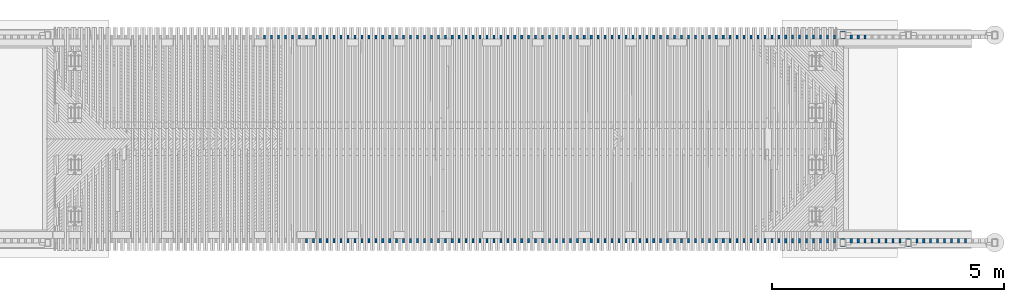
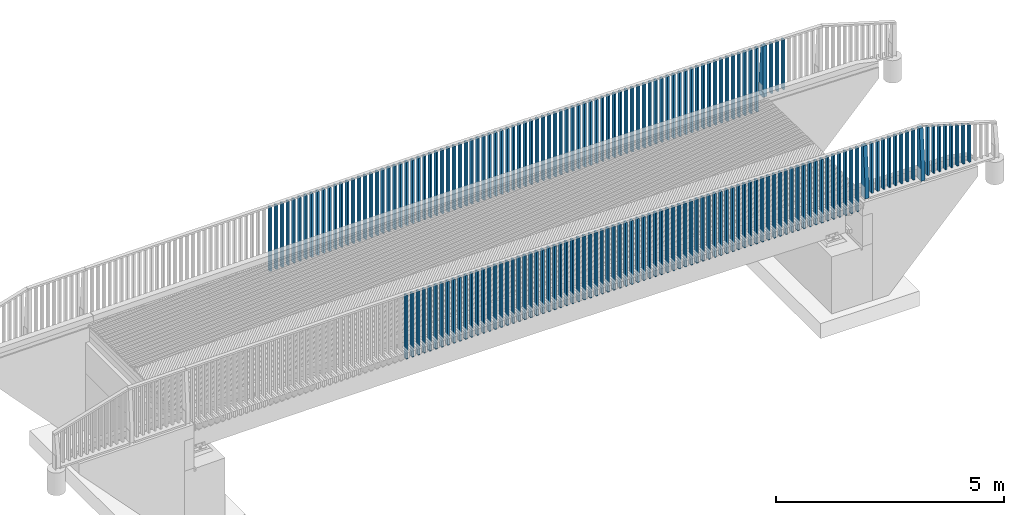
# One storey, part 7 of 47: 182 columns.
"""IFC2X3 building model written with IfcOpenShell, lengths in millimetres."""

from ifc_helpers import new_model, si_unit, frame, origin_with_axes, place, context, subcontext, project, spatial, faceted_brep, material, type_object, element, save


model = new_model("IFC2X3")

# Units and contexts
model_context = context("Model", 3, precision=1e-05, world=origin_with_axes())
body_context = subcontext(model_context, "Body", "Model", "MODEL_VIEW")
ifc_project = project(units=[si_unit("LENGTHUNIT", "METRE", prefix="MILLI"), si_unit("AREAUNIT", "SQUARE_METRE"), si_unit("VOLUMEUNIT", "CUBIC_METRE"), si_unit("MASSUNIT", "GRAM", prefix="KILO"), si_unit("TIMEUNIT", "SECOND"), si_unit("PLANEANGLEUNIT", "RADIAN"), si_unit("SOLIDANGLEUNIT", "STERADIAN"), si_unit("THERMODYNAMICTEMPERATUREUNIT", "DEGREE_CELSIUS"), si_unit("LUMINOUSINTENSITYUNIT", "LUMEN")], contexts=[model_context])

# Site, building, storey
site_placement = place(None, origin_with_axes())
site = spatial("IfcSite", under=ifc_project, at=site_placement, Name="Undefined", CompositionType="ELEMENT")
building_placement = place(site_placement, origin_with_axes())
building = spatial("IfcBuilding", under=site, at=building_placement, Name="Undefined", CompositionType="ELEMENT")
storey_placement = place(building_placement, origin_with_axes())
storey = spatial("IfcBuildingStorey", under=building, at=storey_placement, Name="Undefined", CompositionType="ELEMENT", Elevation=0.0)

# Columns
ifc_material = material(Name="TIMBER/Timber_Undefined")
column_type_1 = type_object("IfcColumnType", Name="180*100", PredefinedType="NOTDEFINED")
column_1_placement = place(storey_placement, frame((17996.9999992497, 60125.0120919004, 3729.56999999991), z_axis=(0.0, 1.0, 0.0), x_axis=(0.0, 0.0, 1.0)))
element("IfcColumn", 1, at=column_1_placement, inside=storey, type_object=column_type_1, material=ifc_material, Name="KAIDEPYLVÄS", ObjectType="180*100", context=body_context, shape_type="Brep", body=[
    faceted_brep([(-606.989999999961, -50.0, -90.0), (-606.989999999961, -50.0, 90.0), (-606.989999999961, 50.0, 90.0), (-606.989999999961, 50.0, -90.0), (758.516492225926, -50.0, 90.0), (756.859403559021, 50.0, 90.0), (756.859403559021, 50.0, -5.6821815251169), (-287.990000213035, 50.0, -90.0), (-287.990000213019, -50.0, -90.0), (758.516492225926, -50.0, -5.54845689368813)], [[[0, 1, 2, 3]], [[2, 1, 4, 5]], [[3, 2, 5, 6, 7]], [[0, 3, 7, 8]], [[4, 1, 0, 8, 9]], [[5, 4, 9, 6]], [[8, 7, 6, 9]]]),
])
column_2_placement = place(storey_placement, frame((16581.9999992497, 64604.9879081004, 3749.43999999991), z_axis=(0.0, -1.0, 0.0), x_axis=(0.0, 0.0, 1.0)))
element("IfcColumn", 2, at=column_2_placement, inside=storey, type_object=column_type_1, material=ifc_material, Name="KAIDEPYLVÄS", ObjectType="180*100", context=body_context, shape_type="Brep", body=[
    faceted_brep([(-606.989999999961, 50.0, 90.0), (-606.989999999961, -50.0, 90.0), (756.859403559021, -50.0, 90.0), (758.516492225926, 50.0, 90.0), (-606.989999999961, -50.0, -90.0), (-606.989999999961, 50.0, -90.0), (-287.990000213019, -50.0, -90.0), (756.859403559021, -50.0, -5.68218152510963), (758.516492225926, 50.0, -5.54845689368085), (-287.990000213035, 50.0, -90.0)], [[[0, 1, 2, 3]], [[4, 1, 0, 5]], [[2, 1, 4, 6, 7]], [[3, 2, 7, 8]], [[5, 0, 3, 8, 9]], [[4, 5, 9, 6]], [[8, 7, 6, 9]]]),
])
column_3_placement = place(storey_placement, frame((16581.9999992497, 60125.0120919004, 3749.43999999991), z_axis=(0.0, 1.0, 0.0), x_axis=(0.0, 0.0, 1.0)))
element("IfcColumn", 3, at=column_3_placement, inside=storey, type_object=column_type_1, material=ifc_material, Name="KAIDEPYLVÄS", ObjectType="180*100", context=body_context, shape_type="Brep", body=[
    faceted_brep([(-606.989999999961, -50.0, -90.0), (-606.989999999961, -50.0, 90.0), (-606.989999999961, 50.0, 90.0), (-606.989999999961, 50.0, -90.0), (758.516492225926, -50.0, 90.0), (756.859403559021, 50.0, 90.0), (756.859403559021, 50.0, -5.6821815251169), (-287.990000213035, 50.0, -90.0), (-287.990000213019, -50.0, -90.0), (758.516492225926, -50.0, -5.54845689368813)], [[[0, 1, 2, 3]], [[2, 1, 4, 5]], [[3, 2, 5, 6, 7]], [[0, 3, 7, 8]], [[4, 1, 0, 8, 9]], [[5, 4, 9, 6]], [[8, 7, 6, 9]]]),
])
column_type_2 = type_object("IfcColumnType", Name="95*45", PredefinedType="NOTDEFINED")
column_4_placement = place(storey_placement, frame((17064.4999992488, 64562.4979081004, 3119.90000000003), z_axis=(0.0, 1.0, 0.0), x_axis=(0.0, 0.0, 1.0)))
element("IfcColumn", 4, at=column_4_placement, inside=storey, type_object=column_type_2, material=ifc_material, Name="BEAM", ObjectType="95*45", context=body_context, shape_type="Brep", body=[
    faceted_brep([(45.8837540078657, 22.5, -47.5), (45.8837540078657, 22.5, 47.5), (1380.24638384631, 22.5, 47.5), (1380.24638384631, 22.5, -47.5), (46.5156987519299, -22.5, 47.5), (1380.87760086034, -22.5, 47.5), (46.5156987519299, -22.5, -47.5), (1380.87760086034, -22.5, -47.5)], [[[0, 1, 2, 3]], [[1, 4, 5, 2]], [[4, 6, 7, 5]], [[6, 0, 3, 7]], [[5, 7, 3, 2]], [[6, 4, 1, 0]]]),
])
column_5_placement = place(storey_placement, frame((16914.4999992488, 64562.4979081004, 3119.90000000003), z_axis=(0.0, 1.0, 0.0), x_axis=(0.0, 0.0, 1.0)))
element("IfcColumn", 5, at=column_5_placement, inside=storey, type_object=column_type_2, material=ifc_material, Name="BEAM", ObjectType="95*45", context=body_context, shape_type="Brep", body=[
    faceted_brep([(47.9902364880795, 22.5, -47.5), (47.9902364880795, 22.5, 47.5), (1382.35044055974, 22.5, 47.5), (1382.35044055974, 22.5, -47.5), (48.6221812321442, -22.5, 47.5), (1382.98165757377, -22.5, 47.5), (48.6221812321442, -22.5, -47.5), (1382.98165757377, -22.5, -47.5)], [[[0, 1, 2, 3]], [[1, 4, 5, 2]], [[4, 6, 7, 5]], [[6, 0, 3, 7]], [[5, 7, 3, 2]], [[6, 4, 1, 0]]]),
])
column_6_placement = place(storey_placement, frame((16764.4999992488, 64562.4979081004, 3119.90000000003), z_axis=(0.0, 1.0, 0.0), x_axis=(0.0, 0.0, 1.0)))
element("IfcColumn", 6, at=column_6_placement, inside=storey, type_object=column_type_2, material=ifc_material, Name="BEAM", ObjectType="95*45", context=body_context, shape_type="Brep", body=[
    faceted_brep([(50.0967189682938, 22.5, -47.5), (50.0967189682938, 22.5, 47.5), (1384.45449727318, 22.5, 47.5), (1384.45449727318, 22.5, -47.5), (50.728663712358, -22.5, 47.5), (1385.08571428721, -22.5, 47.5), (50.728663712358, -22.5, -47.5), (1385.08571428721, -22.5, -47.5)], [[[0, 1, 2, 3]], [[1, 4, 5, 2]], [[4, 6, 7, 5]], [[6, 0, 3, 7]], [[5, 7, 3, 2]], [[6, 4, 1, 0]]]),
])
column_7_placement = place(storey_placement, frame((18179.5291836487, 60167.5020919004, 3121.94), z_axis=(0.0, -1.0, 0.0), x_axis=(0.0, 0.0, 1.0)))
element("IfcColumn", 7, at=column_7_placement, inside=storey, type_object=column_type_2, material=ifc_material, Name="BEAM", ObjectType="95*45", context=body_context, shape_type="Brep", body=[
    faceted_brep([(28.8093027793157, 22.5, -47.5), (28.8093027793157, 22.5, 47.5), (1329.96289203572, 22.5, 47.5), (1329.96289203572, 22.5, -47.5), (28.1773870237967, -22.5, 47.5), (1316.53527806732, -22.5, 47.5), (28.1773870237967, -22.5, -47.5), (1316.53527806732, -22.5, -47.5)], [[[0, 1, 2, 3]], [[1, 4, 5, 2]], [[4, 6, 7, 5]], [[6, 0, 3, 7]], [[5, 7, 3, 2]], [[6, 4, 1, 0]]]),
])
column_8_placement = place(storey_placement, frame((18329.5291836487, 60167.5020919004, 3121.94), z_axis=(0.0, -1.0, 0.0), x_axis=(0.0, 0.0, 1.0)))
element("IfcColumn", 8, at=column_8_placement, inside=storey, type_object=column_type_2, material=ifc_material, Name="BEAM", ObjectType="95*45", context=body_context, shape_type="Brep", body=[
    faceted_brep([(26.7029169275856, 22.5, -47.5), (26.7029169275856, 22.5, 47.5), (1285.20417880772, 22.5, 47.5), (1285.20417880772, 22.5, -47.5), (26.0710011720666, -22.5, 47.5), (1271.77656483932, -22.5, 47.5), (26.0710011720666, -22.5, -47.5), (1271.77656483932, -22.5, -47.5)], [[[0, 1, 2, 3]], [[1, 4, 5, 2]], [[4, 6, 7, 5]], [[6, 0, 3, 7]], [[5, 7, 3, 2]], [[6, 4, 1, 0]]]),
])
column_9_placement = place(storey_placement, frame((18479.5291836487, 60167.5020919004, 3121.94), z_axis=(0.0, -1.0, 0.0), x_axis=(0.0, 0.0, 1.0)))
element("IfcColumn", 9, at=column_9_placement, inside=storey, type_object=column_type_2, material=ifc_material, Name="BEAM", ObjectType="95*45", context=body_context, shape_type="Brep", body=[
    faceted_brep([(24.5965310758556, 22.5, -47.5), (24.5965310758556, 22.5, 47.5), (1240.44546557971, 22.5, 47.5), (1240.44546557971, 22.5, -47.5), (23.9646153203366, -22.5, 47.5), (1227.01785161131, -22.5, 47.5), (23.9646153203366, -22.5, -47.5), (1227.01785161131, -22.5, -47.5)], [[[0, 1, 2, 3]], [[1, 4, 5, 2]], [[4, 6, 7, 5]], [[6, 0, 3, 7]], [[5, 7, 3, 2]], [[6, 4, 1, 0]]]),
])
column_10_placement = place(storey_placement, frame((18629.5291836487, 60167.5020919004, 3121.94), z_axis=(0.0, -1.0, 0.0), x_axis=(0.0, 0.0, 1.0)))
element("IfcColumn", 10, at=column_10_placement, inside=storey, type_object=column_type_2, material=ifc_material, Name="BEAM", ObjectType="95*45", context=body_context, shape_type="Brep", body=[
    faceted_brep([(22.4901452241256, 22.5, -47.5), (22.4901452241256, 22.5, 47.5), (1195.68675235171, 22.5, 47.5), (1195.68675235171, 22.5, -47.5), (21.8582294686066, -22.5, 47.5), (1182.2591383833, -22.5, 47.5), (21.8582294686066, -22.5, -47.5), (1182.2591383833, -22.5, -47.5)], [[[0, 1, 2, 3]], [[1, 4, 5, 2]], [[4, 6, 7, 5]], [[6, 0, 3, 7]], [[5, 7, 3, 2]], [[6, 4, 1, 0]]]),
])
column_11_placement = place(storey_placement, frame((18779.5291836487, 60167.5020919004, 3121.94), z_axis=(0.0, -1.0, 0.0), x_axis=(0.0, 0.0, 1.0)))
element("IfcColumn", 11, at=column_11_placement, inside=storey, type_object=column_type_2, material=ifc_material, Name="BEAM", ObjectType="95*45", context=body_context, shape_type="Brep", body=[
    faceted_brep([(20.3837593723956, 22.5, -47.5), (20.3837593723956, 22.5, 47.5), (1150.9280391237, 22.5, 47.5), (1150.9280391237, 22.5, -47.5), (19.7518436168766, -22.5, 47.5), (1137.5004251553, -22.5, 47.5), (19.7518436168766, -22.5, -47.5), (1137.5004251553, -22.5, -47.5)], [[[0, 1, 2, 3]], [[1, 4, 5, 2]], [[4, 6, 7, 5]], [[6, 0, 3, 7]], [[5, 7, 3, 2]], [[6, 4, 1, 0]]]),
])
column_12_placement = place(storey_placement, frame((18929.5291836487, 60167.5020919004, 3121.94), z_axis=(0.0, -1.0, 0.0), x_axis=(0.0, 0.0, 1.0)))
element("IfcColumn", 12, at=column_12_placement, inside=storey, type_object=column_type_2, material=ifc_material, Name="BEAM", ObjectType="95*45", context=body_context, shape_type="Brep", body=[
    faceted_brep([(18.2773735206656, 22.5, -47.5), (18.2773735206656, 22.5, 47.5), (1106.16932589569, 22.5, 47.5), (1106.16932589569, 22.5, -47.5), (17.6454577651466, -22.5, 47.5), (1092.74171192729, -22.5, 47.5), (17.6454577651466, -22.5, -47.5), (1092.74171192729, -22.5, -47.5)], [[[0, 1, 2, 3]], [[1, 4, 5, 2]], [[4, 6, 7, 5]], [[6, 0, 3, 7]], [[5, 7, 3, 2]], [[6, 4, 1, 0]]]),
])
column_13_placement = place(storey_placement, frame((19079.5291836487, 60167.5020919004, 3121.94), z_axis=(0.0, -1.0, 0.0), x_axis=(0.0, 0.0, 1.0)))
element("IfcColumn", 13, at=column_13_placement, inside=storey, type_object=column_type_2, material=ifc_material, Name="BEAM", ObjectType="95*45", context=body_context, shape_type="Brep", body=[
    faceted_brep([(16.1709876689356, 22.5, -47.5), (16.1709876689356, 22.5, 47.5), (1061.41061266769, 22.5, 47.5), (1061.41061266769, 22.5, -47.5), (15.5390719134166, -22.5, 47.5), (1047.98299869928, -22.5, 47.5), (15.5390719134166, -22.5, -47.5), (1047.98299869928, -22.5, -47.5)], [[[0, 1, 2, 3]], [[1, 4, 5, 2]], [[4, 6, 7, 5]], [[6, 0, 3, 7]], [[5, 7, 3, 2]], [[6, 4, 1, 0]]]),
])
column_14_placement = place(storey_placement, frame((19229.5291836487, 60167.5020919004, 3121.94), z_axis=(0.0, -1.0, 0.0), x_axis=(0.0, 0.0, 1.0)))
element("IfcColumn", 14, at=column_14_placement, inside=storey, type_object=column_type_2, material=ifc_material, Name="BEAM", ObjectType="95*45", context=body_context, shape_type="Brep", body=[
    faceted_brep([(14.0646018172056, 22.5, -47.5), (14.0646018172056, 22.5, 47.5), (1016.65189943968, 22.5, 47.5), (1016.65189943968, 22.5, -47.5), (13.4326860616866, -22.5, 47.5), (1003.22428547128, -22.5, 47.5), (13.4326860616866, -22.5, -47.5), (1003.22428547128, -22.5, -47.5)], [[[0, 1, 2, 3]], [[1, 4, 5, 2]], [[4, 6, 7, 5]], [[6, 0, 3, 7]], [[5, 7, 3, 2]], [[6, 4, 1, 0]]]),
])
column_15_placement = place(storey_placement, frame((17814.4999992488, 60167.5020919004, 3119.90000000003), z_axis=(0.0, -1.0, 0.0), x_axis=(0.0, 0.0, 1.0)))
element("IfcColumn", 15, at=column_15_placement, inside=storey, type_object=column_type_2, material=ifc_material, Name="BEAM", ObjectType="95*45", context=body_context, shape_type="Brep", body=[
    faceted_brep([(35.9832863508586, 22.5, -47.5), (35.9832863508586, 22.5, 47.5), (1370.35731729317, 22.5, 47.5), (1370.35731729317, 22.5, -47.5), (35.3513416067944, -22.5, 47.5), (1369.72610027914, -22.5, 47.5), (35.3513416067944, -22.5, -47.5), (1369.72610027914, -22.5, -47.5)], [[[0, 1, 2, 3]], [[1, 4, 5, 2]], [[4, 6, 7, 5]], [[6, 0, 3, 7]], [[5, 7, 3, 2]], [[6, 4, 1, 0]]]),
])
column_16_placement = place(storey_placement, frame((17664.4999992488, 60167.5020919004, 3119.90000000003), z_axis=(0.0, -1.0, 0.0), x_axis=(0.0, 0.0, 1.0)))
element("IfcColumn", 16, at=column_16_placement, inside=storey, type_object=column_type_2, material=ifc_material, Name="BEAM", ObjectType="95*45", context=body_context, shape_type="Brep", body=[
    faceted_brep([(38.0897688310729, 22.5, -47.5), (38.0897688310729, 22.5, 47.5), (1372.4613740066, 22.5, 47.5), (1372.4613740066, 22.5, -47.5), (37.4578240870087, -22.5, 47.5), (1371.83015699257, -22.5, 47.5), (37.4578240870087, -22.5, -47.5), (1371.83015699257, -22.5, -47.5)], [[[0, 1, 2, 3]], [[1, 4, 5, 2]], [[4, 6, 7, 5]], [[6, 0, 3, 7]], [[5, 7, 3, 2]], [[6, 4, 1, 0]]]),
])
column_17_placement = place(storey_placement, frame((17514.4999992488, 60167.5020919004, 3119.90000000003), z_axis=(0.0, -1.0, 0.0), x_axis=(0.0, 0.0, 1.0)))
element("IfcColumn", 17, at=column_17_placement, inside=storey, type_object=column_type_2, material=ifc_material, Name="BEAM", ObjectType="95*45", context=body_context, shape_type="Brep", body=[
    faceted_brep([(40.1962513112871, 22.5, -47.5), (40.1962513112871, 22.5, 47.5), (1374.56543072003, 22.5, 47.5), (1374.56543072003, 22.5, -47.5), (39.564306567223, -22.5, 47.5), (1373.934213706, -22.5, 47.5), (39.564306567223, -22.5, -47.5), (1373.934213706, -22.5, -47.5)], [[[0, 1, 2, 3]], [[1, 4, 5, 2]], [[4, 6, 7, 5]], [[6, 0, 3, 7]], [[5, 7, 3, 2]], [[6, 4, 1, 0]]]),
])
column_18_placement = place(storey_placement, frame((17364.4999992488, 60167.5020919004, 3119.90000000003), z_axis=(0.0, -1.0, 0.0), x_axis=(0.0, 0.0, 1.0)))
element("IfcColumn", 18, at=column_18_placement, inside=storey, type_object=column_type_2, material=ifc_material, Name="BEAM", ObjectType="95*45", context=body_context, shape_type="Brep", body=[
    faceted_brep([(42.3027337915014, 22.5, -47.5), (42.3027337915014, 22.5, 47.5), (1376.66948743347, 22.5, 47.5), (1376.66948743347, 22.5, -47.5), (41.6707890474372, -22.5, 47.5), (1376.03827041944, -22.5, 47.5), (41.6707890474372, -22.5, -47.5), (1376.03827041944, -22.5, -47.5)], [[[0, 1, 2, 3]], [[1, 4, 5, 2]], [[4, 6, 7, 5]], [[6, 0, 3, 7]], [[5, 7, 3, 2]], [[6, 4, 1, 0]]]),
])
column_19_placement = place(storey_placement, frame((17214.4999992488, 60167.5020919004, 3119.90000000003), z_axis=(0.0, -1.0, 0.0), x_axis=(0.0, 0.0, 1.0)))
element("IfcColumn", 19, at=column_19_placement, inside=storey, type_object=column_type_2, material=ifc_material, Name="BEAM", ObjectType="95*45", context=body_context, shape_type="Brep", body=[
    faceted_brep([(44.4092162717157, 22.5, -47.5), (44.4092162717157, 22.5, 47.5), (1378.7735441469, 22.5, 47.5), (1378.7735441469, 22.5, -47.5), (43.7772715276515, -22.5, 47.5), (1378.14232713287, -22.5, 47.5), (43.7772715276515, -22.5, -47.5), (1378.14232713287, -22.5, -47.5)], [[[0, 1, 2, 3]], [[1, 4, 5, 2]], [[4, 6, 7, 5]], [[6, 0, 3, 7]], [[5, 7, 3, 2]], [[6, 4, 1, 0]]]),
])
column_20_placement = place(storey_placement, frame((17064.4999992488, 60167.5020919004, 3119.90000000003), z_axis=(0.0, -1.0, 0.0), x_axis=(0.0, 0.0, 1.0)))
element("IfcColumn", 20, at=column_20_placement, inside=storey, type_object=column_type_2, material=ifc_material, Name="BEAM", ObjectType="95*45", context=body_context, shape_type="Brep", body=[
    faceted_brep([(46.5156987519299, 22.5, -47.5), (46.5156987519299, 22.5, 47.5), (1380.87760086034, 22.5, 47.5), (1380.87760086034, 22.5, -47.5), (45.8837540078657, -22.5, 47.5), (1380.24638384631, -22.5, 47.5), (45.8837540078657, -22.5, -47.5), (1380.24638384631, -22.5, -47.5)], [[[0, 1, 2, 3]], [[1, 4, 5, 2]], [[4, 6, 7, 5]], [[6, 0, 3, 7]], [[5, 7, 3, 2]], [[6, 4, 1, 0]]]),
])
column_21_placement = place(storey_placement, frame((16914.4999992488, 60167.5020919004, 3119.90000000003), z_axis=(0.0, -1.0, 0.0), x_axis=(0.0, 0.0, 1.0)))
element("IfcColumn", 21, at=column_21_placement, inside=storey, type_object=column_type_2, material=ifc_material, Name="BEAM", ObjectType="95*45", context=body_context, shape_type="Brep", body=[
    faceted_brep([(48.6221812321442, 22.5, -47.5), (48.6221812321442, 22.5, 47.5), (1382.98165757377, 22.5, 47.5), (1382.98165757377, 22.5, -47.5), (47.9902364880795, -22.5, 47.5), (1382.35044055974, -22.5, 47.5), (47.9902364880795, -22.5, -47.5), (1382.35044055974, -22.5, -47.5)], [[[0, 1, 2, 3]], [[1, 4, 5, 2]], [[4, 6, 7, 5]], [[6, 0, 3, 7]], [[5, 7, 3, 2]], [[6, 4, 1, 0]]]),
])
column_22_placement = place(storey_placement, frame((16764.4999992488, 60167.5020919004, 3119.90000000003), z_axis=(0.0, -1.0, 0.0), x_axis=(0.0, 0.0, 1.0)))
element("IfcColumn", 22, at=column_22_placement, inside=storey, type_object=column_type_2, material=ifc_material, Name="BEAM", ObjectType="95*45", context=body_context, shape_type="Brep", body=[
    faceted_brep([(50.728663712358, 22.5, -47.5), (50.728663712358, 22.5, 47.5), (1385.08571428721, 22.5, 47.5), (1385.08571428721, 22.5, -47.5), (50.0967189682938, -22.5, 47.5), (1384.45449727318, -22.5, 47.5), (50.0967189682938, -22.5, -47.5), (1384.45449727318, -22.5, -47.5)], [[[0, 1, 2, 3]], [[1, 4, 5, 2]], [[4, 6, 7, 5]], [[6, 0, 3, 7]], [[5, 7, 3, 2]], [[6, 4, 1, 0]]]),
])
for number, where, z_axis, x_axis in (
    (23, (16400.0000678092, 64562.4879081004, 2804.85408151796), (0.0, -1.0, 0.0), (0.0, 0.0, 1.0)),
    (24, (16250.0000678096, 64562.4879081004, 2806.92364731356), (0.0, -1.0, 0.0), (0.0, 0.0, 1.0)),
    (25, (16100.0000678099, 64562.4879081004, 2808.95591672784), (0.0, -1.0, 0.0), (0.0, 0.0, 1.0)),
    (26, (15950.0000678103, 64562.4879081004, 2810.95089013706), (0.0, -1.0, 0.0), (0.0, 0.0, 1.0)),
    (27, (15800.0000678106, 64562.4879081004, 2812.90856791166), (0.0, -1.0, 0.0), (0.0, 0.0, 1.0)),
    (28, (15650.0000678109, 64562.4879081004, 2814.82895041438), (0.0, -1.0, 0.0), (0.0, 0.0, 1.0)),
    (29, (15500.0000678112, 64562.4879081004, 2816.71203800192), (0.0, -1.0, 0.0), (0.0, 0.0, 1.0)),
    (30, (15350.0000678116, 64562.4879081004, 2818.55783102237), (0.0, -1.0, 0.0), (0.0, 0.0, 1.0)),
    (31, (15200.0000678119, 64562.4879081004, 2820.36632981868), (0.0, -1.0, 0.0), (0.0, 0.0, 1.0)),
    (32, (15050.0000678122, 64562.4879081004, 2822.13753472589), (0.0, -1.0, 0.0), (0.0, 0.0, 1.0)),
    (33, (14900.0000678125, 64562.4879081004, 2823.871446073), (0.0, -1.0, 0.0), (0.0, 0.0, 1.0)),
    (34, (14750.0000678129, 64562.4879081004, 2825.56806418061), (0.0, -1.0, 0.0), (0.0, 0.0, 1.0)),
    (35, (14600.0000678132, 64562.4879081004, 2827.22738936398), (0.0, -1.0, 0.0), (0.0, 0.0, 1.0)),
    (36, (14450.0000678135, 64562.4879081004, 2828.84942193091), (0.0, -1.0, 0.0), (0.0, 0.0, 1.0)),
    (37, (14300.0000678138, 64562.4879081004, 2830.43416218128), (0.0, -1.0, 0.0), (0.0, 0.0, 1.0)),
    (38, (14150.0000678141, 64562.4879081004, 2831.98161040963), (0.0, -1.0, 0.0), (0.0, 0.0, 1.0)),
    (39, (14000.0000678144, 64562.4879081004, 2833.49176690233), (0.0, -1.0, 0.0), (0.0, 0.0, 1.0)),
    (40, (13850.0000678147, 64562.4879081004, 2834.96463194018), (0.0, -1.0, 0.0), (0.0, 0.0, 1.0)),
    (41, (13700.000067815, 64562.4879081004, 2836.4002057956), (0.0, -1.0, 0.0), (0.0, 0.0, 1.0)),
    (42, (13550.0000678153, 64562.4879081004, 2837.79848873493), (0.0, -1.0, 0.0), (0.0, 0.0, 1.0)),
    (43, (13400.0000678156, 64562.4879081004, 2839.1594810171), (0.0, -1.0, 0.0), (0.0, 0.0, 1.0)),
    (44, (13250.0000678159, 64562.4879081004, 2840.48318289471), (0.0, -1.0, 0.0), (0.0, 0.0, 1.0)),
    (45, (13100.0000678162, 64562.4879081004, 2841.76959461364), (0.0, -1.0, 0.0), (0.0, 0.0, 1.0)),
    (46, (12950.0000678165, 64562.4879081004, 2843.01871641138), (0.0, -1.0, 0.0), (0.0, 0.0, 1.0)),
    (47, (12800.0000678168, 64562.4879081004, 2844.23054852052), (0.0, -1.0, 0.0), (0.0, 0.0, 1.0)),
    (48, (12650.0000678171, 64562.4879081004, 2845.40509116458), (0.0, -1.0, 0.0), (0.0, 0.0, 1.0)),
    (49, (12500.0000678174, 64562.4879081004, 2846.54234456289), (0.0, -1.0, 0.0), (0.0, 0.0, 1.0)),
    (50, (12350.0000678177, 64562.4879081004, 2847.64230892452), (0.0, -1.0, 0.0), (0.0, 0.0, 1.0)),
    (51, (12200.000067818, 64562.4879081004, 2848.70498445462), (0.0, -1.0, 0.0), (0.0, 0.0, 1.0)),
    (52, (12050.0000678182, 64562.4879081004, 2849.73037134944), (0.0, -1.0, 0.0), (0.0, 0.0, 1.0)),
    (53, (11900.0000678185, 64562.4879081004, 2850.71846979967), (0.0, -1.0, 0.0), (0.0, 0.0, 1.0)),
    (54, (11750.0000678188, 64562.4879081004, 2851.66927998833), (0.0, -1.0, 0.0), (0.0, 0.0, 1.0)),
    (55, (11600.0000678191, 64562.4879081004, 2852.5828020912), (0.0, -1.0, 0.0), (0.0, 0.0, 1.0)),
    (56, (11450.0000678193, 64562.4879081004, 2853.45903627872), (0.0, -1.0, 0.0), (0.0, 0.0, 1.0)),
    (57, (11300.0000678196, 64562.4879081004, 2854.29798271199), (0.0, -1.0, 0.0), (0.0, 0.0, 1.0)),
    (58, (11150.0000678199, 64562.4879081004, 2855.09964154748), (0.0, -1.0, 0.0), (0.0, 0.0, 1.0)),
    (59, (11000.0000678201, 64562.4879081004, 2855.86401293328), (0.0, -1.0, 0.0), (0.0, 0.0, 1.0)),
    (60, (10850.0000678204, 64562.4879081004, 2856.59109701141), (0.0, -1.0, 0.0), (0.0, 0.0, 1.0)),
    (61, (10700.0000678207, 64562.4879081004, 2857.28089391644), (0.0, -1.0, 0.0), (0.0, 0.0, 1.0)),
    (62, (10550.0000678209, 64562.4879081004, 2857.93340377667), (0.0, -1.0, 0.0), (0.0, 0.0, 1.0)),
    (63, (10400.0000678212, 64562.4879081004, 2858.54862671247), (0.0, -1.0, 0.0), (0.0, 0.0, 1.0)),
    (64, (10250.0000678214, 64562.4879081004, 2859.12656283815), (0.0, -1.0, 0.0), (0.0, 0.0, 1.0)),
    (65, (10100.0000678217, 64562.4879081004, 2859.6672122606), (0.0, -1.0, 0.0), (0.0, 0.0, 1.0)),
    (66, (9950.00006782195, 64562.4879081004, 2860.17057508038), (0.0, -1.0, 0.0), (0.0, 0.0, 1.0)),
    (67, (9800.0000678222, 64562.4879081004, 2860.63665139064), (0.0, -1.0, 0.0), (0.0, 0.0, 1.0)),
    (68, (9650.00006782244, 64562.4879081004, 2861.06544127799), (0.0, -1.0, 0.0), (0.0, 0.0, 1.0)),
    (69, (9500.00006782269, 64562.4879081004, 2861.45694482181), (0.0, -1.0, 0.0), (0.0, 0.0, 1.0)),
    (70, (9350.00006782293, 64562.4879081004, 2861.8111620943), (0.0, -1.0, 0.0), (0.0, 0.0, 1.0)),
    (71, (9200.00006782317, 64562.4879081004, 2862.12809316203), (0.0, -1.0, 0.0), (0.0, 0.0, 1.0)),
    (72, (9050.00006782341, 64562.4879081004, 2862.40773808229), (0.0, -1.0, 0.0), (0.0, 0.0, 1.0)),
    (73, (8900.00006782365, 64562.4879081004, 2862.65009690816), (0.0, -1.0, 0.0), (0.0, 0.0, 1.0)),
    (74, (8750.00006782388, 64562.4879081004, 2862.8551696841), (0.0, -1.0, 0.0), (0.0, 0.0, 1.0)),
    (75, (8600.00006782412, 64562.4879081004, 2863.02295644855), (0.0, -1.0, 0.0), (0.0, 0.0, 1.0)),
    (76, (8450.00006782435, 64562.4879081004, 2863.15345723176), (0.0, -1.0, 0.0), (0.0, 0.0, 1.0)),
    (77, (8300.00006782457, 64562.4879081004, 2863.24667205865), (0.0, -1.0, 0.0), (0.0, 0.0, 1.0)),
    (78, (8150.0000678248, 64562.4879081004, 2863.30260094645), (0.0, -1.0, 0.0), (0.0, 0.0, 1.0)),
    (79, (4100.00006783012, 64562.4879081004, 2850.71846959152), (0.0, -1.0, 0.0), (0.0, 0.0, 1.0)),
    (80, (4250.00006782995, 64562.4879081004, 2851.66927978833), (0.0, -1.0, 0.0), (0.0, 0.0, 1.0)),
    (81, (4400.00006782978, 64562.4879081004, 2852.58280189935), (0.0, -1.0, 0.0), (0.0, 0.0, 1.0)),
    (82, (4550.0000678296, 64562.4879081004, 2853.45903609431), (0.0, -1.0, 0.0), (0.0, 0.0, 1.0)),
    (83, (4700.00006782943, 64562.4879081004, 2854.29798253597), (0.0, -1.0, 0.0), (0.0, 0.0, 1.0)),
    (84, (4850.00006782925, 64562.4879081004, 2855.09964137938), (0.0, -1.0, 0.0), (0.0, 0.0, 1.0)),
    (85, (5000.00006782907, 64562.4879081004, 2855.86401277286), (0.0, -1.0, 0.0), (0.0, 0.0, 1.0)),
    (86, (5150.00006782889, 64562.4879081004, 2856.59109685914), (0.0, -1.0, 0.0), (0.0, 0.0, 1.0)),
    (87, (5300.0000678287, 64562.4879081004, 2857.28089377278), (0.0, -1.0, 0.0), (0.0, 0.0, 1.0)),
    (88, (5450.00006782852, 64562.4879081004, 2857.93340364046), (0.0, -1.0, 0.0), (0.0, 0.0, 1.0)),
    (89, (5600.00006782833, 64562.4879081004, 2858.54862658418), (0.0, -1.0, 0.0), (0.0, 0.0, 1.0)),
    (90, (5750.00006782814, 64562.4879081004, 2859.12656271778), (0.0, -1.0, 0.0), (0.0, 0.0, 1.0)),
    (91, (5900.00006782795, 64562.4879081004, 2859.66721214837), (0.0, -1.0, 0.0), (0.0, 0.0, 1.0)),
    (92, (6050.00006782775, 64562.4879081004, 2860.17057497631), (0.0, -1.0, 0.0), (0.0, 0.0, 1.0)),
    (93, (6200.00006782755, 64562.4879081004, 2860.63665129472), (0.0, -1.0, 0.0), (0.0, 0.0, 1.0)),
    (94, (6350.00006782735, 64562.4879081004, 2861.06544118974), (0.0, -1.0, 0.0), (0.0, 0.0, 1.0)),
    (95, (6500.00006782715, 64562.4879081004, 2861.45694474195), (0.0, -1.0, 0.0), (0.0, 0.0, 1.0)),
    (96, (6650.00006782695, 64562.4879081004, 2861.81116202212), (0.0, -1.0, 0.0), (0.0, 0.0, 1.0)),
    (97, (6800.00006782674, 64562.4879081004, 2862.12809309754), (0.0, -1.0, 0.0), (0.0, 0.0, 1.0)),
    (98, (6950.00006782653, 64562.4879081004, 2862.40773802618), (0.0, -1.0, 0.0), (0.0, 0.0, 1.0)),
    (99, (7100.00006782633, 64562.4879081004, 2862.65009686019), (0.0, -1.0, 0.0), (0.0, 0.0, 1.0)),
    (100, (7250.00006782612, 64562.4879081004, 2862.85516964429), (0.0, -1.0, 0.0), (0.0, 0.0, 1.0)),
    (101, (7400.0000678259, 64562.4879081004, 2863.02295641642), (0.0, -1.0, 0.0), (0.0, 0.0, 1.0)),
    (102, (7550.00006782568, 64562.4879081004, 2863.15345720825), (0.0, -1.0, 0.0), (0.0, 0.0, 1.0)),
    (103, (7700.00006782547, 64562.4879081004, 2863.24667204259), (0.0, -1.0, 0.0), (0.0, 0.0, 1.0)),
    (104, (7850.00006782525, 64562.4879081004, 2863.30260093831), (0.0, -1.0, 0.0), (0.0, 0.0, 1.0)),
    (105, (8000.00006782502, 64562.4879081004, 2863.32124390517), (0.0, -1.0, 0.0), (0.0, 0.0, 1.0)),
    (106, (16400.0000678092, 60167.5120919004, 2804.85408151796), (0.0, 1.0, 0.0), (0.0, 0.0, 1.0)),
    (107, (16250.0000678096, 60167.5120919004, 2806.92364731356), (0.0, 1.0, 0.0), (0.0, 0.0, 1.0)),
    (108, (16100.0000678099, 60167.5120919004, 2808.95591672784), (0.0, 1.0, 0.0), (0.0, 0.0, 1.0)),
    (109, (15950.0000678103, 60167.5120919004, 2810.95089013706), (0.0, 1.0, 0.0), (0.0, 0.0, 1.0)),
    (110, (15800.0000678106, 60167.5120919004, 2812.90856791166), (0.0, 1.0, 0.0), (0.0, 0.0, 1.0)),
    (111, (15650.0000678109, 60167.5120919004, 2814.82895041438), (0.0, 1.0, 0.0), (0.0, 0.0, 1.0)),
    (112, (15500.0000678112, 60167.5120919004, 2816.71203800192), (0.0, 1.0, 0.0), (0.0, 0.0, 1.0)),
    (113, (15350.0000678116, 60167.5120919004, 2818.55783102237), (0.0, 1.0, 0.0), (0.0, 0.0, 1.0)),
    (114, (15200.0000678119, 60167.5120919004, 2820.36632981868), (0.0, 1.0, 0.0), (0.0, 0.0, 1.0)),
    (115, (15050.0000678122, 60167.5120919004, 2822.13753472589), (0.0, 1.0, 0.0), (0.0, 0.0, 1.0)),
    (116, (14900.0000678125, 60167.5120919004, 2823.871446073), (0.0, 1.0, 0.0), (0.0, 0.0, 1.0)),
    (117, (14750.0000678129, 60167.5120919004, 2825.56806418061), (0.0, 1.0, 0.0), (0.0, 0.0, 1.0)),
    (118, (14600.0000678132, 60167.5120919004, 2827.22738936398), (0.0, 1.0, 0.0), (0.0, 0.0, 1.0)),
    (119, (14450.0000678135, 60167.5120919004, 2828.84942193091), (0.0, 1.0, 0.0), (0.0, 0.0, 1.0)),
    (120, (14300.0000678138, 60167.5120919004, 2830.43416218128), (0.0, 1.0, 0.0), (0.0, 0.0, 1.0)),
    (121, (14150.0000678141, 60167.5120919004, 2831.98161040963), (0.0, 1.0, 0.0), (0.0, 0.0, 1.0)),
    (122, (14000.0000678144, 60167.5120919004, 2833.49176690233), (0.0, 1.0, 0.0), (0.0, 0.0, 1.0)),
    (123, (13850.0000678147, 60167.5120919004, 2834.96463194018), (0.0, 1.0, 0.0), (0.0, 0.0, 1.0)),
    (124, (13700.000067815, 60167.5120919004, 2836.4002057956), (0.0, 1.0, 0.0), (0.0, 0.0, 1.0)),
    (125, (13550.0000678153, 60167.5120919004, 2837.79848873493), (0.0, 1.0, 0.0), (0.0, 0.0, 1.0)),
    (126, (13400.0000678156, 60167.5120919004, 2839.1594810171), (0.0, 1.0, 0.0), (0.0, 0.0, 1.0)),
    (127, (13250.0000678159, 60167.5120919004, 2840.48318289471), (0.0, 1.0, 0.0), (0.0, 0.0, 1.0)),
    (128, (13100.0000678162, 60167.5120919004, 2841.76959461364), (0.0, 1.0, 0.0), (0.0, 0.0, 1.0)),
    (129, (12950.0000678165, 60167.5120919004, 2843.01871641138), (0.0, 1.0, 0.0), (0.0, 0.0, 1.0)),
    (130, (12800.0000678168, 60167.5120919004, 2844.23054852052), (0.0, 1.0, 0.0), (0.0, 0.0, 1.0)),
    (131, (12650.0000678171, 60167.5120919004, 2845.40509116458), (0.0, 1.0, 0.0), (0.0, 0.0, 1.0)),
    (132, (12500.0000678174, 60167.5120919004, 2846.54234456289), (0.0, 1.0, 0.0), (0.0, 0.0, 1.0)),
    (133, (12350.0000678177, 60167.5120919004, 2847.64230892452), (0.0, 1.0, 0.0), (0.0, 0.0, 1.0)),
    (134, (12200.000067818, 60167.5120919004, 2848.70498445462), (0.0, 1.0, 0.0), (0.0, 0.0, 1.0)),
    (135, (12050.0000678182, 60167.5120919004, 2849.73037134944), (0.0, 1.0, 0.0), (0.0, 0.0, 1.0)),
    (136, (11900.0000678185, 60167.5120919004, 2850.71846979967), (0.0, 1.0, 0.0), (0.0, 0.0, 1.0)),
    (137, (11750.0000678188, 60167.5120919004, 2851.66927998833), (0.0, 1.0, 0.0), (0.0, 0.0, 1.0)),
    (138, (11600.0000678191, 60167.5120919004, 2852.5828020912), (0.0, 1.0, 0.0), (0.0, 0.0, 1.0)),
    (139, (11450.0000678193, 60167.5120919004, 2853.45903627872), (0.0, 1.0, 0.0), (0.0, 0.0, 1.0)),
    (140, (11300.0000678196, 60167.5120919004, 2854.29798271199), (0.0, 1.0, 0.0), (0.0, 0.0, 1.0)),
    (141, (11150.0000678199, 60167.5120919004, 2855.09964154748), (0.0, 1.0, 0.0), (0.0, 0.0, 1.0)),
    (142, (11000.0000678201, 60167.5120919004, 2855.86401293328), (0.0, 1.0, 0.0), (0.0, 0.0, 1.0)),
    (143, (10850.0000678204, 60167.5120919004, 2856.59109701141), (0.0, 1.0, 0.0), (0.0, 0.0, 1.0)),
    (144, (10700.0000678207, 60167.5120919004, 2857.28089391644), (0.0, 1.0, 0.0), (0.0, 0.0, 1.0)),
    (145, (10550.0000678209, 60167.5120919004, 2857.93340377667), (0.0, 1.0, 0.0), (0.0, 0.0, 1.0)),
    (146, (10400.0000678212, 60167.5120919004, 2858.54862671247), (0.0, 1.0, 0.0), (0.0, 0.0, 1.0)),
    (147, (10250.0000678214, 60167.5120919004, 2859.12656283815), (0.0, 1.0, 0.0), (0.0, 0.0, 1.0)),
    (148, (10100.0000678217, 60167.5120919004, 2859.6672122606), (0.0, 1.0, 0.0), (0.0, 0.0, 1.0)),
    (149, (9950.00006782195, 60167.5120919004, 2860.17057508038), (0.0, 1.0, 0.0), (0.0, 0.0, 1.0)),
    (150, (9800.0000678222, 60167.5120919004, 2860.63665139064), (0.0, 1.0, 0.0), (0.0, 0.0, 1.0)),
    (151, (9650.00006782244, 60167.5120919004, 2861.06544127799), (0.0, 1.0, 0.0), (0.0, 0.0, 1.0)),
    (152, (9500.00006782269, 60167.5120919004, 2861.45694482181), (0.0, 1.0, 0.0), (0.0, 0.0, 1.0)),
    (153, (9350.00006782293, 60167.5120919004, 2861.8111620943), (0.0, 1.0, 0.0), (0.0, 0.0, 1.0)),
    (154, (9200.00006782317, 60167.5120919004, 2862.12809316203), (0.0, 1.0, 0.0), (0.0, 0.0, 1.0)),
    (155, (9050.00006782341, 60167.5120919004, 2862.40773808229), (0.0, 1.0, 0.0), (0.0, 0.0, 1.0)),
    (156, (8900.00006782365, 60167.5120919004, 2862.65009690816), (0.0, 1.0, 0.0), (0.0, 0.0, 1.0)),
    (157, (8750.00006782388, 60167.5120919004, 2862.8551696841), (0.0, 1.0, 0.0), (0.0, 0.0, 1.0)),
    (158, (8600.00006782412, 60167.5120919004, 2863.02295644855), (0.0, 1.0, 0.0), (0.0, 0.0, 1.0)),
    (159, (8450.00006782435, 60167.5120919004, 2863.15345723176), (0.0, 1.0, 0.0), (0.0, 0.0, 1.0)),
    (160, (8300.00006782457, 60167.5120919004, 2863.24667205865), (0.0, 1.0, 0.0), (0.0, 0.0, 1.0)),
    (161, (8150.0000678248, 60167.5120919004, 2863.30260094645), (0.0, 1.0, 0.0), (0.0, 0.0, 1.0)),
    (162, (5000.00006782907, 60167.5120919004, 2855.86401277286), (0.0, 1.0, 0.0), (0.0, 0.0, 1.0)),
    (163, (5150.00006782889, 60167.5120919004, 2856.59109685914), (0.0, 1.0, 0.0), (0.0, 0.0, 1.0)),
    (164, (5300.0000678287, 60167.5120919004, 2857.28089377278), (0.0, 1.0, 0.0), (0.0, 0.0, 1.0)),
    (165, (5450.00006782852, 60167.5120919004, 2857.93340364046), (0.0, 1.0, 0.0), (0.0, 0.0, 1.0)),
    (166, (5600.00006782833, 60167.5120919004, 2858.54862658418), (0.0, 1.0, 0.0), (0.0, 0.0, 1.0)),
    (167, (5750.00006782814, 60167.5120919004, 2859.12656271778), (0.0, 1.0, 0.0), (0.0, 0.0, 1.0)),
    (168, (5900.00006782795, 60167.5120919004, 2859.66721214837), (0.0, 1.0, 0.0), (0.0, 0.0, 1.0)),
    (169, (6050.00006782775, 60167.5120919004, 2860.17057497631), (0.0, 1.0, 0.0), (0.0, 0.0, 1.0)),
    (170, (6200.00006782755, 60167.5120919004, 2860.63665129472), (0.0, 1.0, 0.0), (0.0, 0.0, 1.0)),
    (171, (6350.00006782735, 60167.5120919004, 2861.06544118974), (0.0, 1.0, 0.0), (0.0, 0.0, 1.0)),
    (172, (6500.00006782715, 60167.5120919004, 2861.45694474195), (0.0, 1.0, 0.0), (0.0, 0.0, 1.0)),
    (173, (6650.00006782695, 60167.5120919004, 2861.81116202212), (0.0, 1.0, 0.0), (0.0, 0.0, 1.0)),
    (174, (6800.00006782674, 60167.5120919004, 2862.12809309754), (0.0, 1.0, 0.0), (0.0, 0.0, 1.0)),
    (175, (6950.00006782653, 60167.5120919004, 2862.40773802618), (0.0, 1.0, 0.0), (0.0, 0.0, 1.0)),
    (176, (7100.00006782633, 60167.5120919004, 2862.65009686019), (0.0, 1.0, 0.0), (0.0, 0.0, 1.0)),
    (177, (7250.00006782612, 60167.5120919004, 2862.85516964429), (0.0, 1.0, 0.0), (0.0, 0.0, 1.0)),
    (178, (7400.0000678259, 60167.5120919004, 2863.02295641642), (0.0, 1.0, 0.0), (0.0, 0.0, 1.0)),
    (179, (7550.00006782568, 60167.5120919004, 2863.15345720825), (0.0, 1.0, 0.0), (0.0, 0.0, 1.0)),
    (180, (7700.00006782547, 60167.5120919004, 2863.24667204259), (0.0, 1.0, 0.0), (0.0, 0.0, 1.0)),
    (181, (7850.00006782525, 60167.5120919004, 2863.30260093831), (0.0, 1.0, 0.0), (0.0, 0.0, 1.0)),
    (182, (8000.00006782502, 60167.5120919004, 2863.32124390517), (0.0, 1.0, 0.0), (0.0, 0.0, 1.0)),
):
    element("IfcColumn", number, at=place(storey_placement, frame(where, z_axis=z_axis, x_axis=x_axis)), inside=storey, type_object=column_type_2, material=ifc_material, Name="KAIDEPYLVÄS", ObjectType="95*45", context=body_context, shape_type="Brep", body=[
        faceted_brep([(4.00216176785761e-05, 22.5000000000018, -47.5), (4.00216176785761e-05, 22.5000000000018, 47.5), (1705.0, 22.5, 47.5), (1705.0, 22.5, -47.5), (4.00216176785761e-05, -22.5000000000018, 47.5), (1705.0, -22.5, 47.5), (4.00216176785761e-05, -22.5000000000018, -47.5), (1705.0, -22.5, -47.5)], [[[0, 1, 2, 3]], [[1, 4, 5, 2]], [[4, 6, 7, 5]], [[6, 0, 3, 7]], [[5, 7, 3, 2]], [[6, 4, 1, 0]]]),
    ])

save(model, "model.ifc")
